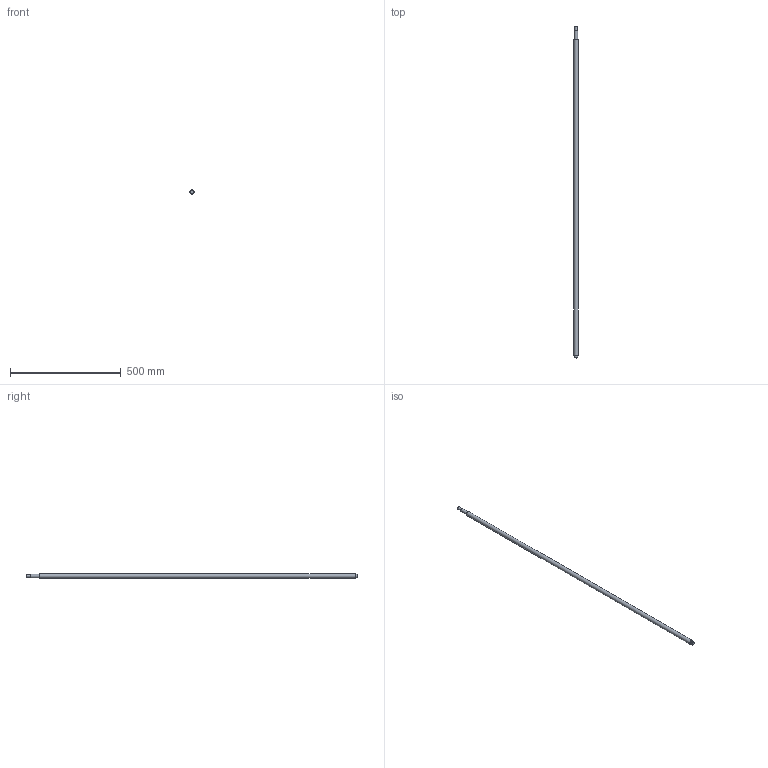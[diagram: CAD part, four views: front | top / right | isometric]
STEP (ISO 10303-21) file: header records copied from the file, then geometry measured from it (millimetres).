
FILE_DESCRIPTION(/* description */ (''),/* implementation_level */ '2;1');
FILE_NAME(/* name */ 'C:\Users\David\Desktop\stepFiles\Profilfuehrung\KUS2010x1500.stp',/* time_stamp */ '2018-06-24T15:12:51+02:00',/* author */ ('David'),/* organization */ (''),/* preprocessor_version */ 'ST-DEVELOPER v17',/* originating_system */ 'Autodesk Inventor 2019',/* authorisation */ '');
FILE_SCHEMA (('AUTOMOTIVE_DESIGN { 1 0 10303 214 3 1 1 }'));
Length unit declared in the file: millimetre
Products named in the file (1): SFU2005xvaiabel
Bounding box: 20 x 1500 x 20 mm (x, y, z)
Volume: 459904.2 mm3; surface area: 93545.1 mm2
Topology: 1 solids, 1 shells, 15 faces, 34 edges, 26 vertices
Faces by surface type: plane 7, cylinder 6, cone 2
Full cylindrical faces by diameter (mm): 12 x1, 14.3 x1, 15 x3, 20 x1
Entity records: 493 total; most frequent: DIRECTION 92, CARTESIAN_POINT 76, ORIENTED_EDGE 68, AXIS2_PLACEMENT_3D 42, EDGE_CURVE 34, CIRCLE 26, VERTEX_POINT 26, EDGE_LOOP 20
